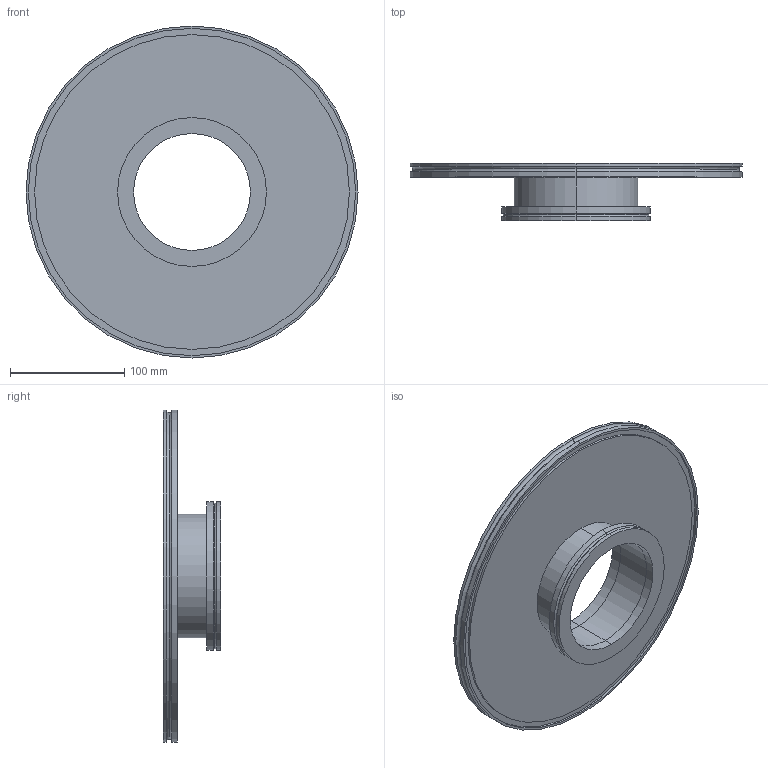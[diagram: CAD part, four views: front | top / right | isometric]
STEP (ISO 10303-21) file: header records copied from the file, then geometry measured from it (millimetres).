
FILE_DESCRIPTION (( 'STEP AP214' ), '1' );
FILE_NAME ('W4RS100-250.STEP', '2020-10-06T08:23:57', ( '' ), ( '' ), 'SwSTEP 2.0', 'SolidWorks 2020', '' );
FILE_SCHEMA (( 'AUTOMOTIVE_DESIGN' ));
Length unit declared in the file: millimetre
Products named in the file (1): W4RS100-250
Bounding box: 290 x 50 x 290 mm (x, y, z)
Volume: 736297.3 mm3; surface area: 186728.4 mm2
Topology: 3 solids, 3 shells, 51 faces, 102 edges, 64 vertices
Faces by surface type: cylinder 30, plane 13, torus 8
Entity records: 1416 total; most frequent: DIRECTION 278, CARTESIAN_POINT 218, ORIENTED_EDGE 204, AXIS2_PLACEMENT_3D 124, EDGE_CURVE 102, CIRCLE 72, EDGE_LOOP 64, VERTEX_POINT 64
